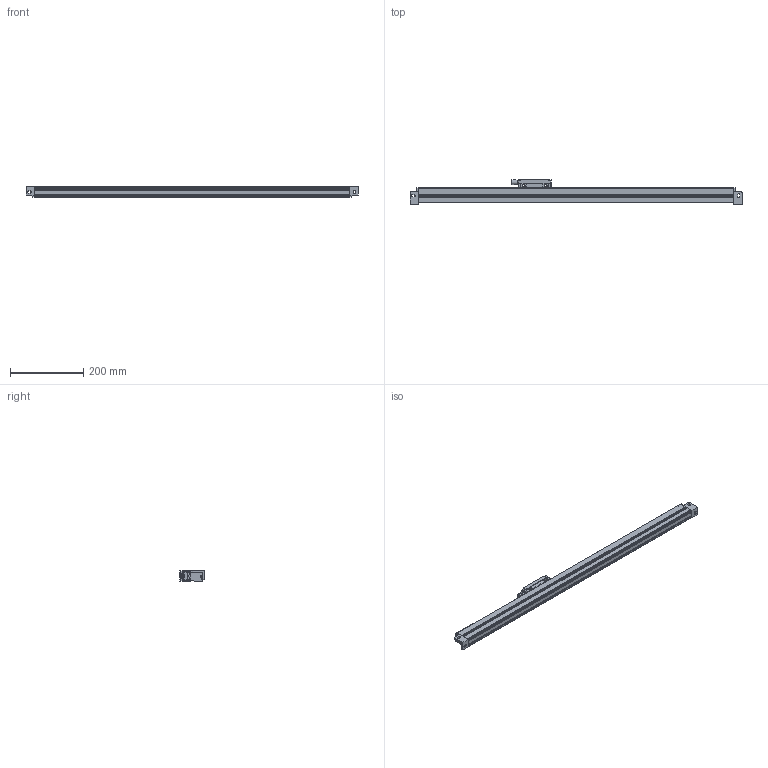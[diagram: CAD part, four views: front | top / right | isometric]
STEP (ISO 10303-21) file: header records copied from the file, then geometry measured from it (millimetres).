
FILE_DESCRIPTION (( 'STEP AP214' ), '1' );
FILE_NAME ('JCXE-L-0750.STEP', '2021-12-16T02:58:43', ( '微软用户' ), ( '微软中国' ), 'SwSTEP 2.0', 'SolidWorks 2010', '' );
FILE_SCHEMA (( 'AUTOMOTIVE_DESIGN' ));
Length unit declared in the file: millimetre
Products named in the file (7): MSBR-5_1-1; PRT0002; MSBR-4_1-1; MSBR-3_1-1; MSBR-2_1-1; 嫖掑喜旯L1200; JCXE-L-0750
Assembly tree (6 placements, depth 2):
  JCXE-L-0750
    MSBR-5_1-1
    MSBR-2_1-1
    PRT0002
    嫖掑喜旯L1200
    MSBR-4_1-1
    MSBR-3_1-1
Bounding box: 904 x 66.8 x 29.5 mm (x, y, z)
Volume: 439138.9 mm3; surface area: 289243.8 mm2
Topology: 6 solids, 6 shells, 547 faces, 1493 edges, 984 vertices
Faces by surface type: plane 331, cylinder 161, cone 27, bspline 25, sphere 3
Entity records: 18988 total; most frequent: CARTESIAN_POINT 4706, ORIENTED_EDGE 2978, DIRECTION 2838, EDGE_CURVE 1489, LINE 1018, VECTOR 1018, VERTEX_POINT 982, AXIS2_PLACEMENT_3D 910
